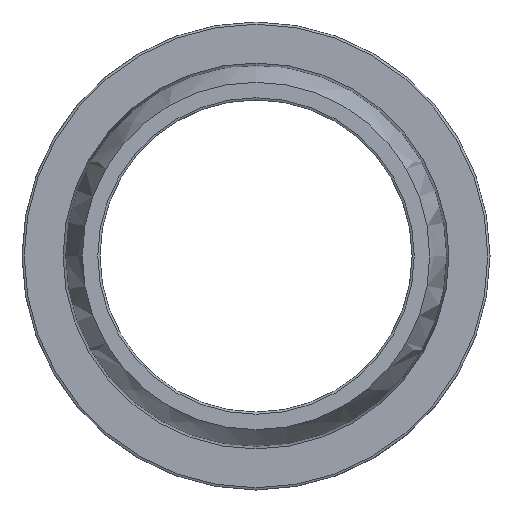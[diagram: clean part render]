
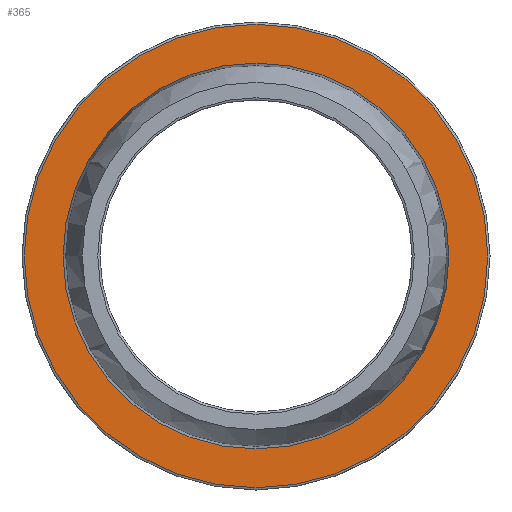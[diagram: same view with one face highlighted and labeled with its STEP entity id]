
A CAD part, left-side view. The second image highlights one B-rep face of the part: STEP entity #365.
In plain terms, the highlighted planar face has unit normal (-1, 0, 0).
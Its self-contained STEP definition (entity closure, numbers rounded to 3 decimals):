
#31=PLANE('',#419);
#76=FACE_BOUND('',#168,.T.);
#109=FACE_OUTER_BOUND('',#167,.T.);
#167=EDGE_LOOP('',(#321));
#168=EDGE_LOOP('',(#322));
#200=CIRCLE('',#418,86.584);
#201=CIRCLE('',#420,104.);
#232=VERTEX_POINT('',#842);
#233=VERTEX_POINT('',#845);
#264=EDGE_CURVE('',#232,#232,#200,.T.);
#265=EDGE_CURVE('',#233,#233,#201,.T.);
#321=ORIENTED_EDGE('',*,*,#265,.F.);
#322=ORIENTED_EDGE('',*,*,#264,.T.);
#365=ADVANCED_FACE('',(#109,#76),#31,.T.);
#418=AXIS2_PLACEMENT_3D('',#843,#522,#523);
#419=AXIS2_PLACEMENT_3D('',#844,#524,#525);
#420=AXIS2_PLACEMENT_3D('',#846,#526,#527);
#522=DIRECTION('center_axis',(1.,0.,0.));
#523=DIRECTION('ref_axis',(0.,0.,-1.));
#524=DIRECTION('center_axis',(-1.,0.,0.));
#525=DIRECTION('ref_axis',(0.,0.,1.));
#526=DIRECTION('center_axis',(1.,0.,0.));
#527=DIRECTION('ref_axis',(0.,0.,-1.));
#842=CARTESIAN_POINT('',(-35.,86.584,0.));
#843=CARTESIAN_POINT('Origin',(-35.,0.,0.));
#844=CARTESIAN_POINT('Origin',(-35.,104.,0.));
#845=CARTESIAN_POINT('',(-35.,104.,0.));
#846=CARTESIAN_POINT('Origin',(-35.,0.,0.));
